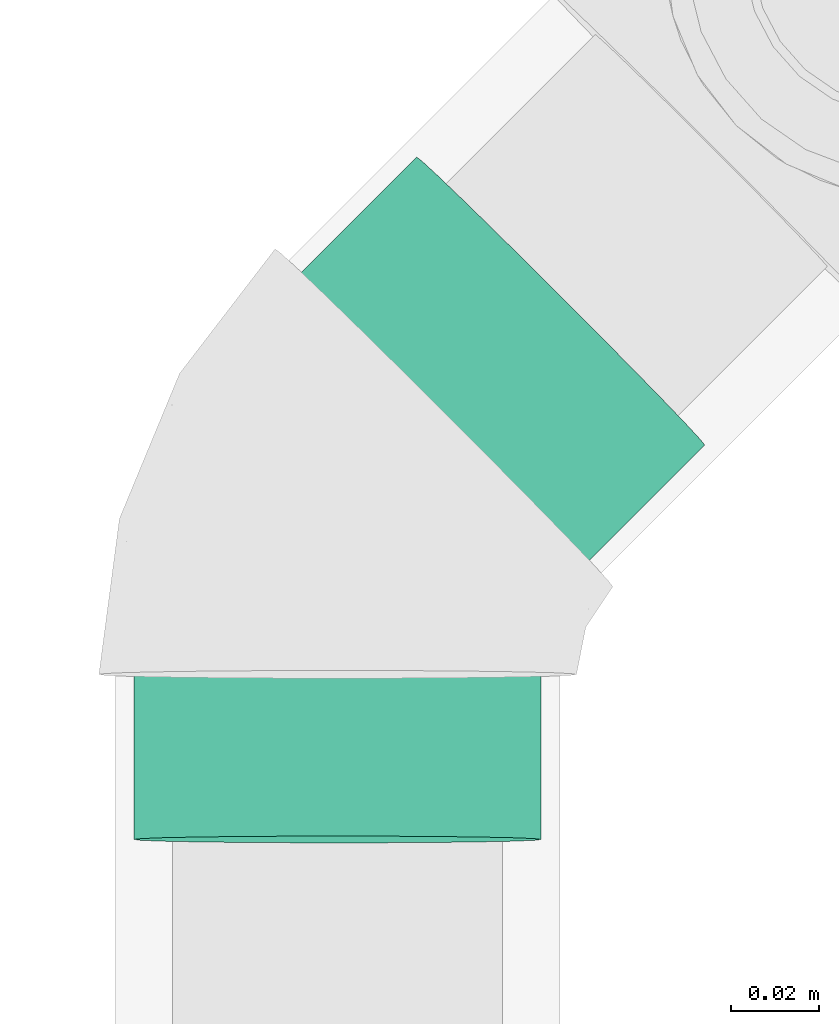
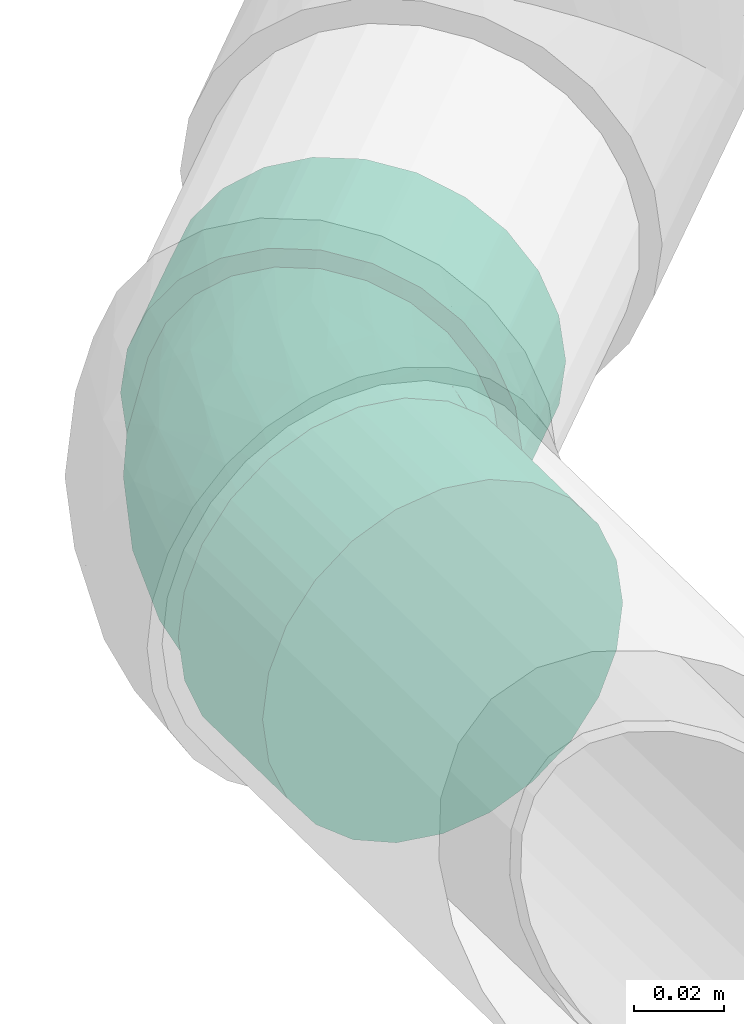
# One storey, part 111 of 156: 1 flow fitting.
"""IFC2X3 building model written with IfcOpenShell, lengths in millimetres."""

from ifc_helpers import new_model, entity, si_unit, converted_unit, derived_unit, direction, frame, origin_with_axes, place, context, subcontext, project, spatial, open_shell, surface_model, source, transform, mapped, type_object, element, save


model = new_model("IFC2X3")

# Units and contexts
model_context = context("Model", 3, precision=0.01, world=frame((0.0, 4.29681676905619e-09, 0.0)), true_north=direction((4.01073788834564e-13, 1.0)))
plan_context = context("Plan", 3, precision=0.01, world=frame((0.0, 4.29681676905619e-09, 0.0)), true_north=direction((4.01073788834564e-13, 1.0)))
body_context = subcontext(model_context, "Body", "Model", "MODEL_VIEW")
ifc_project = project(units=[converted_unit("PLANEANGLEUNIT", "DEGREE", entity("IfcPositiveLengthMeasure", 0.0174532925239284), si_unit("PLANEANGLEUNIT", "RADIAN"), dimensions=[0, 0, 0, 0, 0, 0, 0]), si_unit("AREAUNIT", "SQUARE_METRE"), si_unit("LENGTHUNIT", "METRE", prefix="MILLI"), si_unit("MASSUNIT", "GRAM", prefix="KILO"), si_unit("POWERUNIT", "WATT"), si_unit("PRESSUREUNIT", "PASCAL", prefix="KILO"), si_unit("FORCEUNIT", "NEWTON", prefix="KILO"), si_unit("ELECTRICVOLTAGEUNIT", "VOLT"), si_unit("ELECTRICCURRENTUNIT", "AMPERE"), si_unit("THERMODYNAMICTEMPERATUREUNIT", "DEGREE_CELSIUS"), si_unit("TIMEUNIT", "SECOND"), si_unit("VOLUMEUNIT", "CUBIC_METRE"), derived_unit("LINEARVELOCITYUNIT", [(si_unit("LENGTHUNIT", "METRE"), 1), (si_unit("TIMEUNIT", "SECOND"), -1)]), derived_unit("VOLUMETRICFLOWRATEUNIT", [(si_unit("VOLUMEUNIT", "CUBIC_METRE"), 1), (si_unit("TIMEUNIT", "SECOND"), -1)]), derived_unit("THERMALTRANSMITTANCEUNIT", [(si_unit("POWERUNIT", "WATT"), 1), (si_unit("THERMODYNAMICTEMPERATUREUNIT", "KELVIN"), -1), (si_unit("AREAUNIT", "SQUARE_METRE"), -1)]), derived_unit("SOUNDPRESSUREUNIT", [(si_unit("PRESSUREUNIT", "PASCAL"), 1)])], contexts=[model_context, plan_context])

# Site, building, storey
site_placement = place(None, frame((0.0, -4.29681676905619e-09, 0.0), z_axis=(0.0, 0.0, 1.0), x_axis=(1.0, 0.0, 0.0)))
site = spatial("IfcSite", under=ifc_project, at=site_placement, CompositionType="ELEMENT")
building_placement = place(site_placement, frame((0.0, 4.29681676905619e-09, 0.0), z_axis=(0.0, 0.0, 1.0), x_axis=(1.0, 0.0, 0.0)))
building = spatial("IfcBuilding", under=site, at=building_placement, Name="mc-building", CompositionType="ELEMENT")
storey_placement = place(building_placement, frame((0.0, 0.0, 205200.0), z_axis=(0.0, 0.0, 1.0), x_axis=(1.0, 0.0, 0.0)))
storey = spatial("IfcBuildingStorey", under=building, at=storey_placement, Name="Nivå D + 1,2 m", CompositionType="ELEMENT", Elevation=205200.0)

# Flow fitting
pipe_fitting_type = type_object("IfcPipeFittingType", Name="magi_sewer_bend_001", PredefinedType="BEND")
shared_shape = source(origin_with_axes(), body_context, "Body", "SurfaceModel", [
    surface_model("IfcShellBasedSurfaceModel", [(-71.66706, -44.67407, -11.97038), (-71.66706, -11.97038, -44.67407), (-71.66706, -23.125, -40.05367), (-71.66706, -32.70369, -32.70369), (-71.66706, 0.0, -46.25), (-71.66706, -40.05367, -23.125), (-71.66706, -46.25, 0.0), (-71.66706, 11.97038, -44.67407), (-71.66706, 32.70369, -32.70369), (-71.66706, 23.125, -40.05367), (-71.66706, 44.67407, -11.97038), (-71.66706, 40.05367, -23.125), (-71.66706, -32.70369, 32.70369), (-71.66706, -44.67407, 11.97038), (-71.66706, -40.05367, 23.125), (-71.66706, 40.05367, 23.125), (-71.66706, -23.125, 40.05367), (-71.66706, -11.97038, 44.67407), (-71.66706, 0.0, 46.25), (-71.66706, 11.97038, 44.67407), (-71.66706, 44.67407, 11.97038), (-71.66706, 46.25, 0.0), (-71.66706, 23.125, 40.05367), (-71.66706, 32.70369, 32.70369), (-34.16706, 0.0, 46.25), (-34.16706, -11.97038, 44.67407), (-34.16706, -23.125, 40.05367), (-34.16706, -32.70369, 32.70369), (-34.16706, -40.05367, 23.125), (-34.16706, -44.67407, 11.97038), (-34.16706, 40.05367, 23.125), (-34.16706, -44.67407, -11.97038), (-34.16706, 23.125, 40.05367), (-34.16706, 32.70369, 32.70369), (-34.16706, 11.97038, 44.67407), (-34.16706, 44.67407, 11.97038), (-34.16706, 44.67407, -11.97038), (-34.16706, 46.25, 0.0), (-34.16706, -32.70369, -32.70369), (-34.16706, -40.05367, -23.125), (-34.16706, -23.125, -40.05367), (-34.16706, -11.97038, -44.67407), (-34.16706, 11.97038, -44.67407), (-34.16706, 32.70369, -32.70369), (-34.16706, 40.05367, -23.125), (-34.16706, 23.125, -40.05367), (-34.16706, 0.0, -46.25), (-34.16706, -46.25, 0.0), (42.21873, 59.13574, 44.67407), (19.09639, 82.2634, 11.97038), (22.36313, 78.99591, 23.125), (34.33213, 67.02416, 40.05367), (27.55975, 73.79809, 32.70369), (42.21873, 59.13574, -44.67407), (67.03205, 34.31671, -40.05367), (17.98217, 83.37789, 0.0), (22.36313, 78.99591, -23.125), (19.09639, 82.2634, -11.97038), (27.55975, 73.79809, -32.70369), (34.33213, 67.02416, -40.05367), (50.68209, 50.67044, 46.25), (59.14546, 42.20512, 44.67407), (67.03205, 34.31671, 40.05367), (73.80443, 27.54278, 32.70369), (83.38202, 17.96298, 0.0), (79.00106, 22.34495, 23.125), (82.2678, 19.07746, 11.97038), (82.2678, 19.07746, -11.97038), (59.14546, 42.20512, -44.67407), (50.68209, 50.67044, -46.25), (79.00106, 22.34495, -23.125), (73.80443, 27.54278, -32.70369), (55.74824, -7.43599, -11.97038), (56.86246, -8.55047, 0.0), (55.74824, -7.43599, 11.97038), (52.48151, -4.1685, 23.125), (47.28488, 1.02932, 32.70369), (40.5125, 7.80326, 40.05367), (32.6259, 15.69167, 44.67407), (15.69917, 32.62229, 44.67407), (40.5125, 7.80326, -40.05367), (47.28488, 1.02932, -32.70369), (52.48151, -4.1685, -23.125), (32.6259, 15.69167, -44.67407), (15.69917, 32.62229, -44.67407), (24.16254, 24.15698, -46.25), (-7.42316, 55.74995, 11.97038), (7.81258, 40.5107, 40.05367), (-4.15643, 52.48246, 23.125), (1.0402, 47.28464, 32.70369), (1.0402, 47.28464, -32.70369), (7.81258, 40.5107, -40.05367), (-7.42316, 55.74995, -11.97038), (-4.15643, 52.48246, -23.125), (-8.53739, 56.86443, 0.0), (24.16254, 24.15698, 46.25), (-34.16706, 10.67629, -39.84444), (-34.16706, 0.0, -41.25), (-34.16706, 35.72355, -20.625), (-34.16706, 20.625, -35.72355), (-34.16706, -10.67629, -39.84444), (-34.16706, 29.16816, -29.16816), (-34.16706, 39.84444, -10.67629), (-34.16706, -29.16816, -29.16816), (-34.16706, -35.72355, -20.625), (-34.16706, -20.625, -35.72355), (-34.16706, -39.84444, -10.67629), (-34.16706, -41.25, 0.0), (-34.16706, -39.84444, 10.67629), (-34.16706, 41.25, 0.0), (-34.16706, 35.72355, 20.625), (-34.16706, 39.84444, 10.67629), (-34.16706, 10.67629, 39.84444), (-34.16706, 20.625, 35.72355), (-34.16706, 29.16816, 29.16816), (-34.16706, -35.72355, 20.625), (-34.16706, -29.16816, 29.16816), (-34.16706, -10.67629, 39.84444), (-34.16706, -20.625, 35.72355), (-34.16706, 0.0, 41.25), (16.61413, 31.70712, -39.84444), (44.78517, 3.52961, -29.16816), (24.16254, 24.15698, -41.25), (-1.09492, 49.42025, -20.625), (9.58014, 38.74273, -35.72355), (3.53991, 44.78435, -29.16816), (-1.09492, 49.42025, 20.625), (31.71094, 16.60684, -39.84444), (38.74494, 9.57122, -35.72355), (52.33357, -4.02053, -10.67629), (49.41999, -1.10629, -20.625), (52.33357, -4.02053, 10.67629), (53.32734, -5.01453, 0.0), (-4.00849, 52.3345, -10.67629), (-5.00226, 53.32849, 0.0), (-4.00849, 52.3345, 10.67629), (49.41999, -1.10629, 20.625), (9.58014, 38.74273, 35.72355), (16.61413, 31.70712, 39.84444), (3.53991, 44.78435, 29.16816), (24.16254, 24.15698, 41.25), (38.74494, 9.57122, 35.72355), (44.78517, 3.52961, 29.16816), (31.71094, 16.60684, 39.84444), (10.50531, -25.3662, 22.98801), (-9.12258, -23.31381, 31.83032), (-13.31502, -31.5484, 24.15362), (-13.77679, -38.56597, 0.0), (-2.14279, -37.03455, 0.0), (-8.80119, -38.00326, 7.04424), (31.72174, -12.8966, 24.15362), (-16.34242, -15.1263, 37.70052), (4.23545, -10.22693, 37.18093), (1.22635, 24.79685, 38.50086), (7.45593, 19.52294, 40.64982), (-12.30731, -3.97177, 40.70356), (-3.92229, 9.47079, 41.105), (-20.66516, 5.7159, 40.99964), (-11.71485, 28.28675, 33.67645), (-18.18583, 34.59425, 26.03138), (22.25184, 0.85736, 37.70052), (-15.84489, 17.16523, 38.56285), (15.91577, -27.00124, 16.25786), (-7.39337, -35.68797, 14.32543), (12.80601, -30.92147, 8.96692), (-16.99003, 41.02424, 16.94694), (33.09337, -20.65279, 7.04424), (37.0099, -17.53286, 0.0), (-16.52081, 44.19878, 8.66693), (30.4608, -20.01081, 14.32542), (11.51172, 5.89279, 40.70356), (22.93484, -10.03735, 31.83032), (-18.38356, 44.38906, 0.0), (6.92293, -16.71615, 32.89587), (12.77847, -30.85497, 0.0), (27.69972, -24.67539, 0.0), (-12.30731, -3.97177, -40.70356), (-8.80119, -38.00326, -7.04424), (12.80601, -30.92147, -8.96692), (11.51172, 5.89279, -40.70356), (-18.39926, 16.66898, -38.50086), (-19.07596, 8.53486, -40.64982), (-11.59821, 37.32249, -26.03138), (22.93484, -10.03735, -31.83032), (-16.99003, 41.02424, -16.94694), (30.4608, -20.01081, -14.32542), (-19.56634, 42.93748, -8.66693), (-0.93093, 23.34179, -38.56285), (-7.39337, -35.68797, -14.32542), (-11.71485, 28.28675, -33.67645), (-13.31502, -31.5484, -24.15362), (-9.12258, -23.31381, -31.83032), (6.92293, -16.71615, -32.89587), (10.50531, -25.3662, -22.98801), (-16.34242, -15.1263, -37.70052), (22.25184, 0.85736, -37.70052), (4.23545, -10.22693, -37.18093), (33.09337, -20.65279, -7.04424), (10.57287, 18.65301, -40.99964), (7.83512, -30.34781, -16.25786), (31.72174, -12.8966, -24.15362), (-3.92229, 9.47079, -41.105)], [open_shell([[[0, 1, 2]], [[0, 2, 3]], [[1, 0, 4]], [[0, 3, 5]], [[4, 0, 6]], [[7, 8, 9]], [[8, 7, 4]], [[8, 10, 11]], [[10, 8, 4]], [[4, 6, 10]], [[6, 12, 10]], [[13, 14, 12]], [[10, 12, 15]], [[16, 17, 18]], [[16, 18, 12]], [[19, 12, 18]], [[10, 20, 21]], [[15, 20, 10]], [[15, 22, 23]], [[22, 15, 19]], [[12, 19, 15]], [[6, 13, 12]], [[24, 25, 26]], [[24, 26, 27]], [[27, 28, 29]], [[24, 27, 30]], [[27, 31, 30]], [[32, 30, 33]], [[30, 32, 34]], [[35, 36, 37]], [[30, 34, 24]], [[35, 30, 36]], [[27, 29, 31]], [[36, 30, 31]], [[38, 31, 39]], [[40, 41, 31]], [[40, 31, 38]], [[42, 31, 41]], [[36, 43, 44]], [[36, 31, 43]], [[43, 42, 45]], [[31, 42, 43]], [[41, 46, 42]], [[31, 29, 47]], [[36, 10, 37]], [[44, 11, 36]], [[9, 43, 45]], [[44, 43, 8]], [[7, 45, 42]], [[36, 11, 10]], [[10, 21, 37]], [[7, 9, 45]], [[8, 43, 9]], [[8, 11, 44]], [[4, 7, 42]], [[42, 46, 4]], [[46, 41, 1]], [[5, 39, 31]], [[39, 3, 38]], [[0, 31, 47]], [[1, 40, 2]], [[40, 1, 41]], [[40, 38, 2]], [[38, 3, 2]], [[39, 5, 3]], [[0, 5, 31]], [[47, 6, 0]], [[46, 1, 4]], [[29, 13, 47]], [[28, 14, 29]], [[16, 27, 26]], [[28, 27, 12]], [[17, 26, 25]], [[29, 14, 13]], [[13, 6, 47]], [[17, 16, 26]], [[12, 27, 16]], [[12, 14, 28]], [[18, 17, 25]], [[25, 24, 18]], [[33, 22, 32]], [[35, 15, 30]], [[33, 30, 23]], [[20, 35, 37]], [[32, 19, 34]], [[32, 22, 19]], [[19, 18, 34]], [[33, 23, 22]], [[30, 15, 23]], [[20, 15, 35]], [[37, 21, 20]], [[34, 18, 24]], [[48, 49, 50]], [[51, 50, 52]], [[49, 48, 53]], [[48, 50, 51]], [[54, 53, 48]], [[55, 56, 57]], [[55, 49, 56]], [[58, 53, 59]], [[56, 49, 58]], [[49, 53, 58]], [[48, 60, 61]], [[61, 62, 63]], [[61, 63, 64]], [[65, 66, 64]], [[65, 64, 63]], [[61, 64, 67]], [[53, 68, 69]], [[54, 68, 53]], [[54, 70, 71]], [[70, 54, 67]], [[61, 67, 54]], [[54, 48, 61]], [[72, 73, 74]], [[75, 72, 74]], [[76, 77, 78]], [[79, 80, 75]], [[75, 76, 79]], [[72, 81, 82]], [[81, 72, 80]], [[83, 84, 85]], [[80, 72, 75]], [[83, 80, 84]], [[76, 78, 79]], [[84, 80, 79]], [[86, 79, 87]], [[88, 86, 87]], [[88, 87, 89]], [[90, 79, 86]], [[84, 90, 91]], [[84, 79, 90]], [[86, 92, 93]], [[93, 90, 86]], [[92, 86, 94]], [[79, 78, 95]], [[84, 53, 85]], [[91, 59, 84]], [[56, 90, 93]], [[91, 90, 58]], [[57, 93, 92]], [[84, 59, 53]], [[53, 69, 85]], [[57, 56, 93]], [[58, 90, 56]], [[58, 59, 91]], [[55, 57, 92]], [[92, 94, 55]], [[94, 86, 49]], [[51, 87, 79]], [[87, 52, 89]], [[48, 79, 95]], [[49, 88, 50]], [[88, 49, 86]], [[88, 89, 50]], [[89, 52, 50]], [[87, 51, 52]], [[48, 51, 79]], [[95, 60, 48]], [[94, 49, 55]], [[78, 61, 95]], [[77, 62, 78]], [[65, 76, 75]], [[77, 76, 63]], [[66, 75, 74]], [[78, 62, 61]], [[61, 60, 95]], [[66, 65, 75]], [[63, 76, 65]], [[63, 62, 77]], [[64, 66, 74]], [[74, 73, 64]], [[81, 70, 82]], [[83, 54, 80]], [[81, 80, 71]], [[68, 83, 85]], [[82, 67, 72]], [[82, 70, 67]], [[67, 64, 72]], [[81, 71, 70]], [[80, 54, 71]], [[68, 54, 83]], [[85, 69, 68]], [[72, 64, 73]], [[96, 97, 98]], [[99, 96, 98]], [[100, 98, 97]], [[101, 99, 98]], [[102, 98, 100]], [[103, 104, 105]], [[100, 105, 104]], [[104, 106, 100]], [[106, 102, 100]], [[107, 108, 106]], [[109, 102, 106]], [[110, 111, 109]], [[108, 110, 106]], [[112, 113, 114]], [[108, 114, 110]], [[114, 108, 112]], [[115, 116, 108]], [[117, 108, 116]], [[118, 117, 116]], [[117, 112, 108]], [[117, 119, 112]], [[109, 106, 110]], [[120, 121, 122]], [[123, 120, 124]], [[120, 123, 121]], [[123, 124, 125]], [[123, 126, 121]], [[127, 121, 128]], [[127, 122, 121]], [[121, 129, 130]], [[121, 126, 129]], [[129, 131, 132]], [[133, 126, 123]], [[134, 135, 126]], [[126, 136, 129]], [[137, 138, 126]], [[137, 126, 139]], [[140, 126, 138]], [[136, 141, 142]], [[131, 129, 136]], [[136, 143, 141]], [[136, 126, 143]], [[140, 143, 126]], [[126, 133, 134]], [[144, 145, 146]], [[147, 148, 149]], [[118, 116, 145]], [[136, 142, 150]], [[151, 145, 152]], [[146, 145, 116]], [[138, 153, 154]], [[117, 118, 151]], [[155, 156, 157]], [[119, 117, 155]], [[114, 158, 159]], [[141, 143, 160]], [[157, 112, 119]], [[113, 161, 158]], [[108, 147, 149]], [[137, 139, 158]], [[162, 163, 164]], [[158, 114, 113]], [[116, 115, 146]], [[110, 159, 165]], [[111, 110, 165]], [[131, 166, 167]], [[168, 109, 111]], [[169, 162, 164]], [[163, 149, 164]], [[113, 112, 161]], [[140, 154, 170]], [[142, 141, 171]], [[126, 135, 165]], [[170, 143, 140]], [[144, 146, 163]], [[142, 171, 150]], [[156, 154, 153]], [[171, 141, 160]], [[115, 163, 146]], [[166, 131, 169]], [[144, 150, 171]], [[157, 161, 112]], [[144, 162, 150]], [[111, 165, 168]], [[115, 108, 163]], [[172, 168, 134]], [[145, 173, 152]], [[135, 168, 165]], [[152, 170, 155]], [[126, 165, 159]], [[152, 160, 170]], [[126, 159, 139]], [[156, 155, 170]], [[138, 137, 153]], [[153, 158, 161]], [[151, 155, 117]], [[110, 114, 159]], [[169, 131, 136]], [[169, 136, 150]], [[173, 144, 171]], [[139, 159, 158]], [[158, 153, 137]], [[156, 153, 161]], [[145, 151, 118]], [[155, 151, 152]], [[170, 160, 143]], [[171, 160, 152]], [[108, 107, 147]], [[164, 148, 174]], [[108, 149, 163]], [[148, 164, 149]], [[166, 164, 175]], [[167, 166, 175]], [[167, 132, 131]], [[164, 166, 169]], [[170, 154, 156]], [[140, 138, 154]], [[155, 157, 119]], [[161, 157, 156]], [[144, 173, 145]], [[171, 152, 173]], [[134, 168, 135]], [[168, 172, 109]], [[150, 162, 169]], [[163, 162, 144]], [[175, 164, 174]], [[100, 97, 176]], [[148, 177, 178]], [[122, 127, 179]], [[180, 181, 96]], [[98, 182, 101]], [[128, 121, 183]], [[184, 182, 98]], [[130, 129, 185]], [[102, 186, 184]], [[124, 120, 187]], [[106, 177, 147]], [[99, 180, 96]], [[177, 106, 188]], [[125, 189, 182]], [[188, 104, 190]], [[190, 103, 191]], [[103, 105, 191]], [[192, 193, 191]], [[106, 104, 188]], [[103, 190, 104]], [[194, 105, 100]], [[195, 179, 127]], [[133, 123, 184]], [[196, 194, 176]], [[109, 172, 186]], [[193, 190, 191]], [[134, 133, 186]], [[196, 176, 179]], [[125, 124, 189]], [[184, 98, 102]], [[123, 182, 184]], [[194, 191, 105]], [[187, 189, 124]], [[181, 176, 97]], [[189, 187, 180]], [[101, 189, 99]], [[129, 167, 197]], [[198, 120, 122]], [[195, 127, 128]], [[199, 185, 178]], [[121, 200, 183]], [[196, 195, 183]], [[121, 130, 200]], [[201, 198, 179]], [[200, 193, 183]], [[201, 179, 176]], [[197, 167, 175]], [[198, 187, 120]], [[201, 181, 180]], [[177, 188, 178]], [[193, 199, 190]], [[183, 192, 196]], [[130, 185, 200]], [[133, 184, 186]], [[193, 200, 185]], [[123, 125, 182]], [[101, 182, 189]], [[189, 180, 99]], [[201, 180, 187]], [[176, 194, 100]], [[191, 194, 196]], [[183, 195, 128]], [[179, 195, 196]], [[147, 177, 148]], [[147, 107, 106]], [[199, 178, 188]], [[197, 178, 185]], [[178, 175, 174]], [[129, 132, 167]], [[178, 197, 175]], [[129, 197, 185]], [[176, 181, 201]], [[97, 96, 181]], [[179, 198, 122]], [[187, 198, 201]], [[193, 192, 183]], [[191, 196, 192]], [[109, 186, 102]], [[186, 172, 134]], [[190, 199, 188]], [[185, 199, 193]], [[148, 178, 174]]])]),
])
flow_fitting_placement = place(storey_placement, frame((322648.61247, 462630.07305, 4033.70191999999), z_axis=(0.00690193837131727, 0.0166639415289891, 0.999837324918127), x_axis=(-0.707008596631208, -0.707008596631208, 0.0166639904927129)))
element("IfcFlowFitting", 1, at=flow_fitting_placement, inside=storey, type_object=pipe_fitting_type, Name="magi_sewer_bend_001", context=body_context, shape_type="MappedRepresentation", body=[
    mapped(shared_shape, transform((0.0, 0.0, 0.0), scale=1.0)),
])

save(model, "model.ifc")
